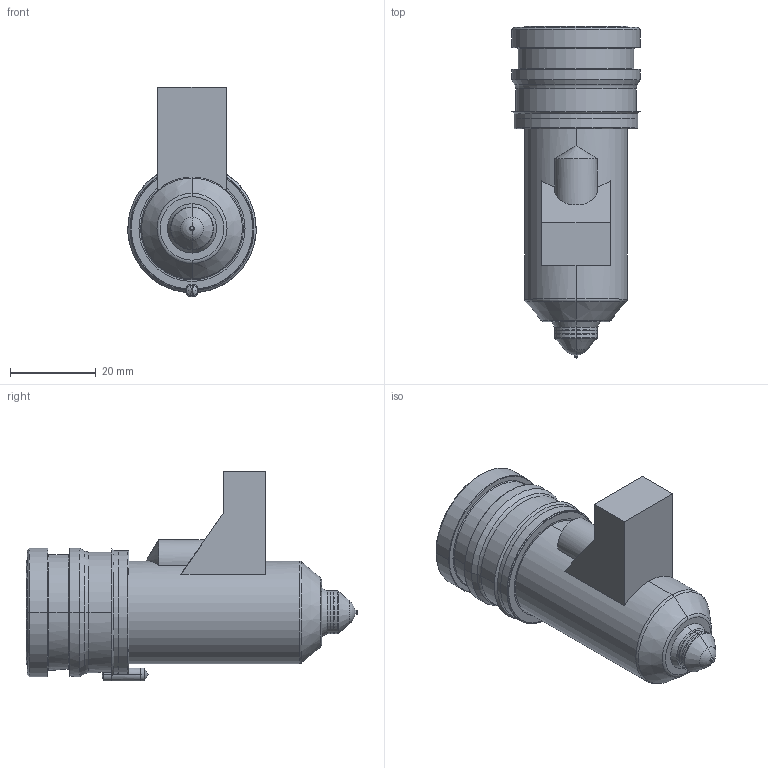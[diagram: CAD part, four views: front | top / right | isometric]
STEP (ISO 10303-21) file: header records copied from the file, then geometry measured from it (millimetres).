
FILE_DESCRIPTION((''),'2;1');
FILE_NAME('MPN-10-29-VX10-056-M','2026-02-05T12:56:14',('UPTIO'),('Thermoplay S.p.A.'),'CREO PARAMETRIC BY PTC INC, 2023494','CREO PARAMETRIC BY PTC INC, 2023494','');
FILE_SCHEMA(('CONFIG_CONTROL_DESIGN','SHAPE_APPEARANCE_LAYERS_GROUPS'));
Length unit declared in the file: millimetre
Products named in the file (1): MPN-10-29-VX10-056-M
Bounding box: 30 x 77.5 x 49 mm (x, y, z)
Volume: 25072.2 mm3; surface area: 25862 mm2
Topology: 3 solids, 5 shells, 547 faces, 1387 edges, 846 vertices
Faces by surface type: cylinder 179, plane 147, torus 71, bspline 70, cone 68, sphere 8, extrusion 4
Entity records: 28570 total; most frequent: CARTESIAN_POINT 12605, ORIENTED_EDGE 2760, DIRECTION 2638, EDGE_CURVE 1380, AXIS2_PLACEMENT_3D 1050, VERTEX_POINT 846, EDGE_LOOP 576, CIRCLE 576
